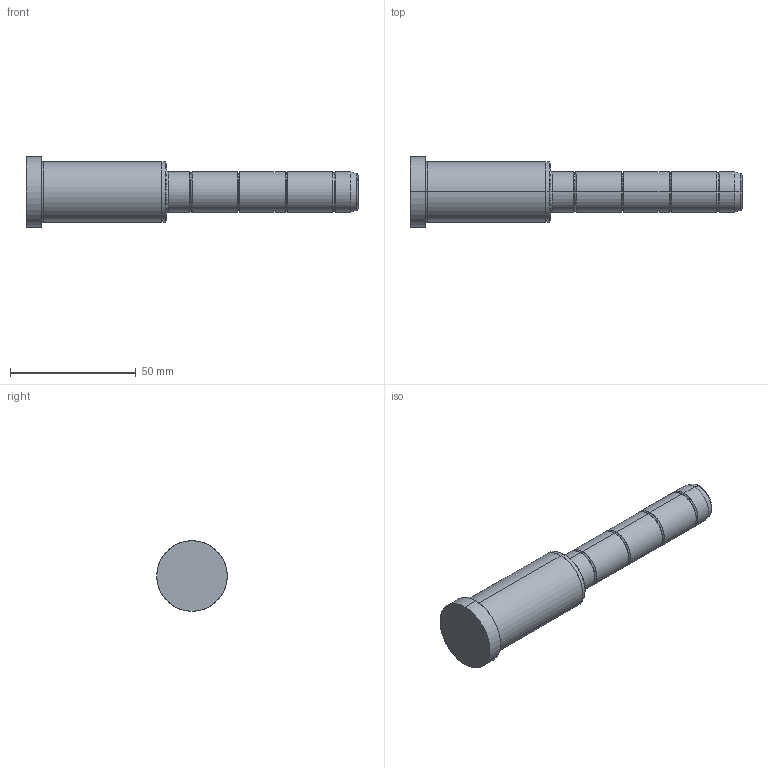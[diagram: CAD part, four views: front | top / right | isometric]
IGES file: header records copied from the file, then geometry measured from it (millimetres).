
Start section: SolidWorks IGES file using analytic representation for surfaces
Global section: file name: C:\Documents and Settings\kalite-mail\Desktop\IGS\D02\16\D02 - 16x56x76.IGS; native system: SolidWorks 2008; preprocessor: SolidWorks 2008; author: kalite-mail; date: 080616.143841; units: millimetre
Bounding box: 132 x 28 x 28 mm (x, y, z)
Surface area: 9371.6 mm2 (no closed solid volume)
Topology: 0 solids, 0 shells, 48 faces, 552 edges, 552 vertices
Faces by surface type: bspline 26, revolution 22
